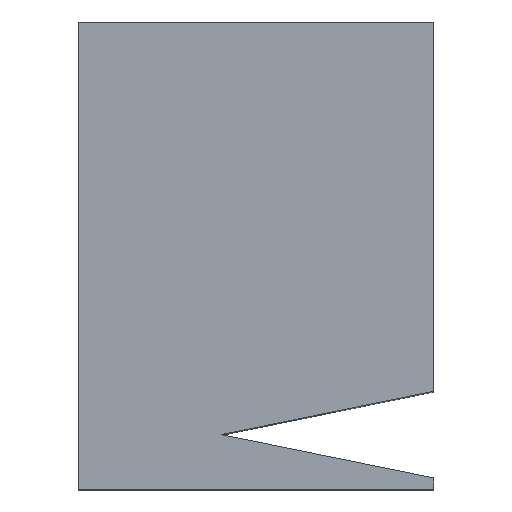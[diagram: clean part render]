
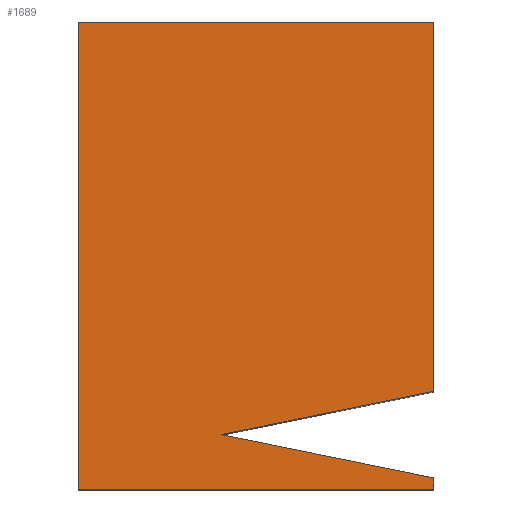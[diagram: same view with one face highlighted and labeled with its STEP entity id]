
A CAD part, top view. The second image highlights one B-rep face of the part: STEP entity #1689.
In plain terms, the highlighted planar face has unit normal (0, 0, 1).
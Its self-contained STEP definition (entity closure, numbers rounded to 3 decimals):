
#44 = PLANE('',#45);
#45 = AXIS2_PLACEMENT_3D('',#46,#47,#48);
#46 = CARTESIAN_POINT('',(31.8,0.,0.));
#47 = DIRECTION('',(1.,0.,-0.));
#48 = DIRECTION('',(0.,0.,1.));
#72 = PLANE('',#73);
#73 = AXIS2_PLACEMENT_3D('',#74,#75,#76);
#74 = CARTESIAN_POINT('',(0.,41.77,0.));
#75 = DIRECTION('',(-0.,1.,0.));
#76 = DIRECTION('',(0.,0.,1.));
#128 = PLANE('',#129);
#129 = AXIS2_PLACEMENT_3D('',#130,#131,#132);
#130 = CARTESIAN_POINT('',(0.,0.,0.));
#131 = DIRECTION('',(-0.,1.,0.));
#132 = DIRECTION('',(0.,0.,1.));
#156 = PLANE('',#157);
#157 = AXIS2_PLACEMENT_3D('',#158,#159,#160);
#158 = CARTESIAN_POINT('',(31.8,0.,0.));
#159 = DIRECTION('',(1.,0.,-0.));
#160 = DIRECTION('',(0.,0.,1.));
#184 = PLANE('',#185);
#185 = AXIS2_PLACEMENT_3D('',#186,#187,#188);
#186 = CARTESIAN_POINT('',(31.8,1.006,0.));
#187 = DIRECTION('',(-0.2,-0.98,0.));
#188 = DIRECTION('',(-0.98,0.2,0.));
#212 = PLANE('',#213);
#213 = AXIS2_PLACEMENT_3D('',#214,#215,#216);
#214 = CARTESIAN_POINT('',(12.839,4.879,0.));
#215 = DIRECTION('',(-0.2,0.98,0.));
#216 = DIRECTION('',(0.98,0.2,0.));
#390 = VERTEX_POINT('',#391);
#391 = CARTESIAN_POINT('',(31.8,41.77,
    43.054));
#412 = EDGE_CURVE('',#413,#390,#415,.T.);
#413 = VERTEX_POINT('',#414);
#414 = CARTESIAN_POINT('',(31.8,8.751,
    43.054));
#415 = SURFACE_CURVE('',#416,(#420,#427),.PCURVE_S1.);
#416 = LINE('',#417,#418);
#417 = CARTESIAN_POINT('',(31.8,0.,43.054));
#418 = VECTOR('',#419,1.);
#419 = DIRECTION('',(-0.,1.,0.));
#420 = PCURVE('',#44,#421);
#421 = DEFINITIONAL_REPRESENTATION('',(#422),#426);
#422 = LINE('',#423,#424);
#423 = CARTESIAN_POINT('',(43.054,0.));
#424 = VECTOR('',#425,1.);
#425 = DIRECTION('',(0.,-1.));
#426 = ( GEOMETRIC_REPRESENTATION_CONTEXT(2) 
PARAMETRIC_REPRESENTATION_CONTEXT() REPRESENTATION_CONTEXT('2D SPACE',''
  ) );
#427 = PCURVE('',#428,#433);
#428 = PLANE('',#429);
#429 = AXIS2_PLACEMENT_3D('',#430,#431,#432);
#430 = CARTESIAN_POINT('',(0.,0.,43.054));
#431 = DIRECTION('',(0.,0.,1.));
#432 = DIRECTION('',(1.,0.,-0.));
#433 = DEFINITIONAL_REPRESENTATION('',(#434),#438);
#434 = LINE('',#435,#436);
#435 = CARTESIAN_POINT('',(31.8,0.));
#436 = VECTOR('',#437,1.);
#437 = DIRECTION('',(0.,1.));
#438 = ( GEOMETRIC_REPRESENTATION_CONTEXT(2) 
PARAMETRIC_REPRESENTATION_CONTEXT() REPRESENTATION_CONTEXT('2D SPACE',''
  ) );
#666 = VERTEX_POINT('',#667);
#667 = CARTESIAN_POINT('',(0.,41.77,43.054));
#681 = PLANE('',#682);
#682 = AXIS2_PLACEMENT_3D('',#683,#684,#685);
#683 = CARTESIAN_POINT('',(0.,0.,0.));
#684 = DIRECTION('',(1.,0.,-0.));
#685 = DIRECTION('',(0.,0.,1.));
#693 = EDGE_CURVE('',#666,#390,#694,.T.);
#694 = SURFACE_CURVE('',#695,(#699,#706),.PCURVE_S1.);
#695 = LINE('',#696,#697);
#696 = CARTESIAN_POINT('',(0.,41.77,43.054));
#697 = VECTOR('',#698,1.);
#698 = DIRECTION('',(1.,0.,-0.));
#699 = PCURVE('',#72,#700);
#700 = DEFINITIONAL_REPRESENTATION('',(#701),#705);
#701 = LINE('',#702,#703);
#702 = CARTESIAN_POINT('',(43.054,0.));
#703 = VECTOR('',#704,1.);
#704 = DIRECTION('',(0.,1.));
#705 = ( GEOMETRIC_REPRESENTATION_CONTEXT(2) 
PARAMETRIC_REPRESENTATION_CONTEXT() REPRESENTATION_CONTEXT('2D SPACE',''
  ) );
#706 = PCURVE('',#428,#707);
#707 = DEFINITIONAL_REPRESENTATION('',(#708),#712);
#708 = LINE('',#709,#710);
#709 = CARTESIAN_POINT('',(0.,41.77));
#710 = VECTOR('',#711,1.);
#711 = DIRECTION('',(1.,0.));
#712 = ( GEOMETRIC_REPRESENTATION_CONTEXT(2) 
PARAMETRIC_REPRESENTATION_CONTEXT() REPRESENTATION_CONTEXT('2D SPACE',''
  ) );
#1156 = VERTEX_POINT('',#1157);
#1157 = CARTESIAN_POINT('',(31.8,0.,43.054));
#1227 = VERTEX_POINT('',#1228);
#1228 = CARTESIAN_POINT('',(0.,0.,43.054));
#1249 = EDGE_CURVE('',#1227,#1156,#1250,.T.);
#1250 = SURFACE_CURVE('',#1251,(#1255,#1262),.PCURVE_S1.);
#1251 = LINE('',#1252,#1253);
#1252 = CARTESIAN_POINT('',(0.,0.,43.054));
#1253 = VECTOR('',#1254,1.);
#1254 = DIRECTION('',(1.,0.,-0.));
#1255 = PCURVE('',#128,#1256);
#1256 = DEFINITIONAL_REPRESENTATION('',(#1257),#1261);
#1257 = LINE('',#1258,#1259);
#1258 = CARTESIAN_POINT('',(43.054,0.));
#1259 = VECTOR('',#1260,1.);
#1260 = DIRECTION('',(0.,1.));
#1261 = ( GEOMETRIC_REPRESENTATION_CONTEXT(2) 
PARAMETRIC_REPRESENTATION_CONTEXT() REPRESENTATION_CONTEXT('2D SPACE',''
  ) );
#1262 = PCURVE('',#428,#1263);
#1263 = DEFINITIONAL_REPRESENTATION('',(#1264),#1268);
#1264 = LINE('',#1265,#1266);
#1265 = CARTESIAN_POINT('',(0.,0.));
#1266 = VECTOR('',#1267,1.);
#1267 = DIRECTION('',(1.,0.));
#1268 = ( GEOMETRIC_REPRESENTATION_CONTEXT(2) 
PARAMETRIC_REPRESENTATION_CONTEXT() REPRESENTATION_CONTEXT('2D SPACE',''
  ) );
#1409 = EDGE_CURVE('',#1156,#1410,#1412,.T.);
#1410 = VERTEX_POINT('',#1411);
#1411 = CARTESIAN_POINT('',(31.8,1.006,
    43.054));
#1412 = SURFACE_CURVE('',#1413,(#1417,#1424),.PCURVE_S1.);
#1413 = LINE('',#1414,#1415);
#1414 = CARTESIAN_POINT('',(31.8,0.,43.054));
#1415 = VECTOR('',#1416,1.);
#1416 = DIRECTION('',(-0.,1.,0.));
#1417 = PCURVE('',#156,#1418);
#1418 = DEFINITIONAL_REPRESENTATION('',(#1419),#1423);
#1419 = LINE('',#1420,#1421);
#1420 = CARTESIAN_POINT('',(43.054,0.));
#1421 = VECTOR('',#1422,1.);
#1422 = DIRECTION('',(0.,-1.));
#1423 = ( GEOMETRIC_REPRESENTATION_CONTEXT(2) 
PARAMETRIC_REPRESENTATION_CONTEXT() REPRESENTATION_CONTEXT('2D SPACE',''
  ) );
#1424 = PCURVE('',#428,#1425);
#1425 = DEFINITIONAL_REPRESENTATION('',(#1426),#1430);
#1426 = LINE('',#1427,#1428);
#1427 = CARTESIAN_POINT('',(31.8,0.));
#1428 = VECTOR('',#1429,1.);
#1429 = DIRECTION('',(0.,1.));
#1430 = ( GEOMETRIC_REPRESENTATION_CONTEXT(2) 
PARAMETRIC_REPRESENTATION_CONTEXT() REPRESENTATION_CONTEXT('2D SPACE',''
  ) );
#1486 = EDGE_CURVE('',#1410,#1487,#1489,.T.);
#1487 = VERTEX_POINT('',#1488);
#1488 = CARTESIAN_POINT('',(12.839,4.879,
    43.054));
#1489 = SURFACE_CURVE('',#1490,(#1494,#1501),.PCURVE_S1.);
#1490 = LINE('',#1491,#1492);
#1491 = CARTESIAN_POINT('',(31.8,1.006,
    43.054));
#1492 = VECTOR('',#1493,1.);
#1493 = DIRECTION('',(-0.98,0.2,0.));
#1494 = PCURVE('',#184,#1495);
#1495 = DEFINITIONAL_REPRESENTATION('',(#1496),#1500);
#1496 = LINE('',#1497,#1498);
#1497 = CARTESIAN_POINT('',(0.,-43.054));
#1498 = VECTOR('',#1499,1.);
#1499 = DIRECTION('',(1.,0.));
#1500 = ( GEOMETRIC_REPRESENTATION_CONTEXT(2) 
PARAMETRIC_REPRESENTATION_CONTEXT() REPRESENTATION_CONTEXT('2D SPACE',''
  ) );
#1501 = PCURVE('',#428,#1502);
#1502 = DEFINITIONAL_REPRESENTATION('',(#1503),#1507);
#1503 = LINE('',#1504,#1505);
#1504 = CARTESIAN_POINT('',(31.8,1.006));
#1505 = VECTOR('',#1506,1.);
#1506 = DIRECTION('',(-0.98,0.2));
#1507 = ( GEOMETRIC_REPRESENTATION_CONTEXT(2) 
PARAMETRIC_REPRESENTATION_CONTEXT() REPRESENTATION_CONTEXT('2D SPACE',''
  ) );
#1641 = EDGE_CURVE('',#1487,#413,#1642,.T.);
#1642 = SURFACE_CURVE('',#1643,(#1647,#1654),.PCURVE_S1.);
#1643 = LINE('',#1644,#1645);
#1644 = CARTESIAN_POINT('',(12.839,4.879,
    43.054));
#1645 = VECTOR('',#1646,1.);
#1646 = DIRECTION('',(0.98,0.2,0.));
#1647 = PCURVE('',#212,#1648);
#1648 = DEFINITIONAL_REPRESENTATION('',(#1649),#1653);
#1649 = LINE('',#1650,#1651);
#1650 = CARTESIAN_POINT('',(0.,-43.054));
#1651 = VECTOR('',#1652,1.);
#1652 = DIRECTION('',(1.,0.));
#1653 = ( GEOMETRIC_REPRESENTATION_CONTEXT(2) 
PARAMETRIC_REPRESENTATION_CONTEXT() REPRESENTATION_CONTEXT('2D SPACE',''
  ) );
#1654 = PCURVE('',#428,#1655);
#1655 = DEFINITIONAL_REPRESENTATION('',(#1656),#1660);
#1656 = LINE('',#1657,#1658);
#1657 = CARTESIAN_POINT('',(12.839,4.879));
#1658 = VECTOR('',#1659,1.);
#1659 = DIRECTION('',(0.98,0.2));
#1660 = ( GEOMETRIC_REPRESENTATION_CONTEXT(2) 
PARAMETRIC_REPRESENTATION_CONTEXT() REPRESENTATION_CONTEXT('2D SPACE',''
  ) );
#1689 = ADVANCED_FACE('f014',(#1690),#428,.T.);
#1690 = FACE_BOUND('',#1691,.T.);
#1691 = EDGE_LOOP('',(#1692,#1693,#1714,#1715,#1716,#1717,#1718));
#1692 = ORIENTED_EDGE('',*,*,#693,.F.);
#1693 = ORIENTED_EDGE('',*,*,#1694,.F.);
#1694 = EDGE_CURVE('',#1227,#666,#1695,.T.);
#1695 = SURFACE_CURVE('',#1696,(#1700,#1707),.PCURVE_S1.);
#1696 = LINE('',#1697,#1698);
#1697 = CARTESIAN_POINT('',(0.,0.,43.054));
#1698 = VECTOR('',#1699,1.);
#1699 = DIRECTION('',(-0.,1.,0.));
#1700 = PCURVE('',#428,#1701);
#1701 = DEFINITIONAL_REPRESENTATION('',(#1702),#1706);
#1702 = LINE('',#1703,#1704);
#1703 = CARTESIAN_POINT('',(0.,0.));
#1704 = VECTOR('',#1705,1.);
#1705 = DIRECTION('',(0.,1.));
#1706 = ( GEOMETRIC_REPRESENTATION_CONTEXT(2) 
PARAMETRIC_REPRESENTATION_CONTEXT() REPRESENTATION_CONTEXT('2D SPACE',''
  ) );
#1707 = PCURVE('',#681,#1708);
#1708 = DEFINITIONAL_REPRESENTATION('',(#1709),#1713);
#1709 = LINE('',#1710,#1711);
#1710 = CARTESIAN_POINT('',(43.054,0.));
#1711 = VECTOR('',#1712,1.);
#1712 = DIRECTION('',(0.,-1.));
#1713 = ( GEOMETRIC_REPRESENTATION_CONTEXT(2) 
PARAMETRIC_REPRESENTATION_CONTEXT() REPRESENTATION_CONTEXT('2D SPACE',''
  ) );
#1714 = ORIENTED_EDGE('',*,*,#1249,.T.);
#1715 = ORIENTED_EDGE('',*,*,#1409,.T.);
#1716 = ORIENTED_EDGE('',*,*,#1486,.T.);
#1717 = ORIENTED_EDGE('',*,*,#1641,.T.);
#1718 = ORIENTED_EDGE('',*,*,#412,.T.);
